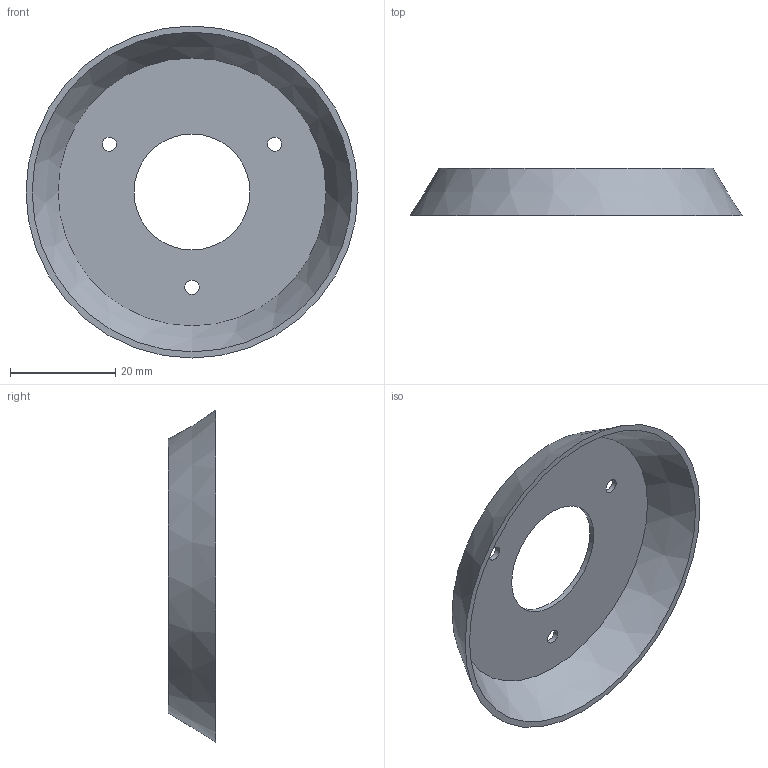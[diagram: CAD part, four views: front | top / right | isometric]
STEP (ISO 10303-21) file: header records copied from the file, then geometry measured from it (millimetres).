
FILE_DESCRIPTION( ( 'STEP AP203' ), '1' );
FILE_NAME( 'C:/Temp/Ganter_Step_05_03_2020/data/1_4/gn_526_1/gn_526_1_b/Scale ring GN 526.1-63-B.stp', '2020-03-05T10:48:54', ( 'License CC BY-ND 4.0' ), ( 'CADENAS' ), ' ', 'PARTsolutions', ' ' );
FILE_SCHEMA( ( 'CONFIG_CONTROL_DESIGN' ) );
Length unit declared in the file: millimetre
Products named in the file (1): _Scale ring GN 526.1-63-B
Bounding box: 63 x 9 x 63 mm (x, y, z)
Volume: 3453.8 mm3; surface area: 7232.3 mm2
Topology: 1 solids, 1 shells, 9 faces, 21 edges, 15 vertices
Faces by surface type: cylinder 4, plane 3, cone 2
Full cylindrical faces by diameter (mm): 2.7 x3, 22 x1
Entity records: 274 total; most frequent: DIRECTION 44, CARTESIAN_POINT 34, EDGE_LOOP 24, ORIENTED_EDGE 24, AXIS2_PLACEMENT_3D 22, FACE_OUTER_BOUND 13, EDGE_CURVE 12, VERTEX_POINT 12
